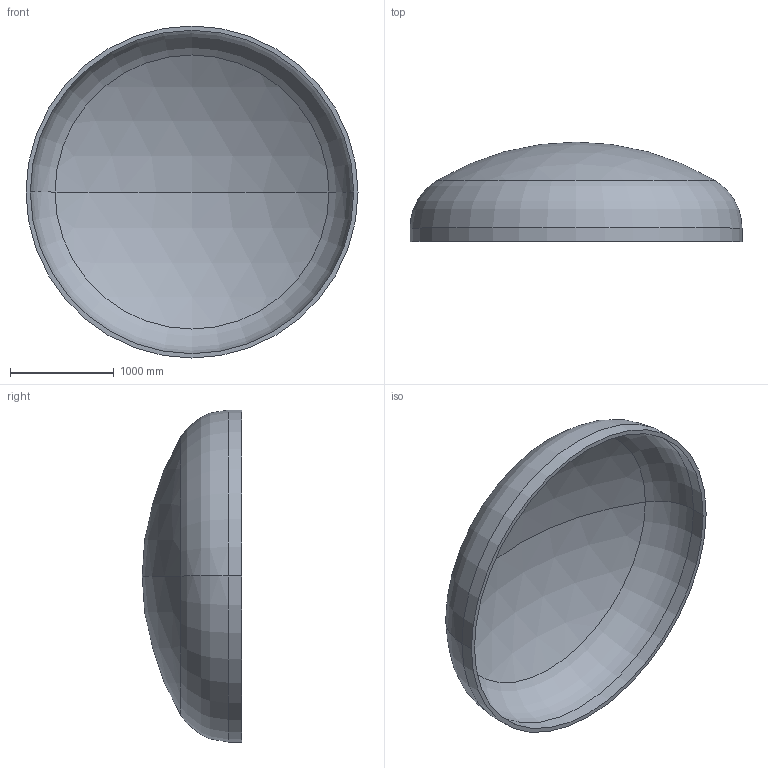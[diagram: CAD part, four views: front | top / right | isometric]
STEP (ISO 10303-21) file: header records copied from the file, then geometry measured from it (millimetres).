
FILE_DESCRIPTION (( 'STEP AP203' ), '1' );
FILE_NAME ('DIN 28013 Korbbogenform_-_Boden DIN 28013 - 3200 x 130 - I - s=42.step', '2016-07-01T18:37:39', ( '' ), ( '' ), 'SwSTEP 2.0', 'SolidWorks 2013', '' );
FILE_SCHEMA (( 'CONFIG_CONTROL_DESIGN' ));
Length unit declared in the file: millimetre
Products named in the file (1): DIN 28013 Korbbogenform_-_Boden DIN 28013 - 3200 x 130 - I - s=42
Bounding box: 3200 x 958.79 x 3200 mm (x, y, z)
Volume: 513435684.2 mm3; surface area: 24869692.5 mm2
Topology: 1 solids, 1 shells, 13 faces, 24 edges, 14 vertices
Faces by surface type: torus 4, cylinder 4, sphere 4, plane 1
Entity records: 407 total; most frequent: DIRECTION 72, CARTESIAN_POINT 52, ORIENTED_EDGE 48, AXIS2_PLACEMENT_3D 34, EDGE_CURVE 24, CIRCLE 20, EDGE_LOOP 14, VERTEX_POINT 14
